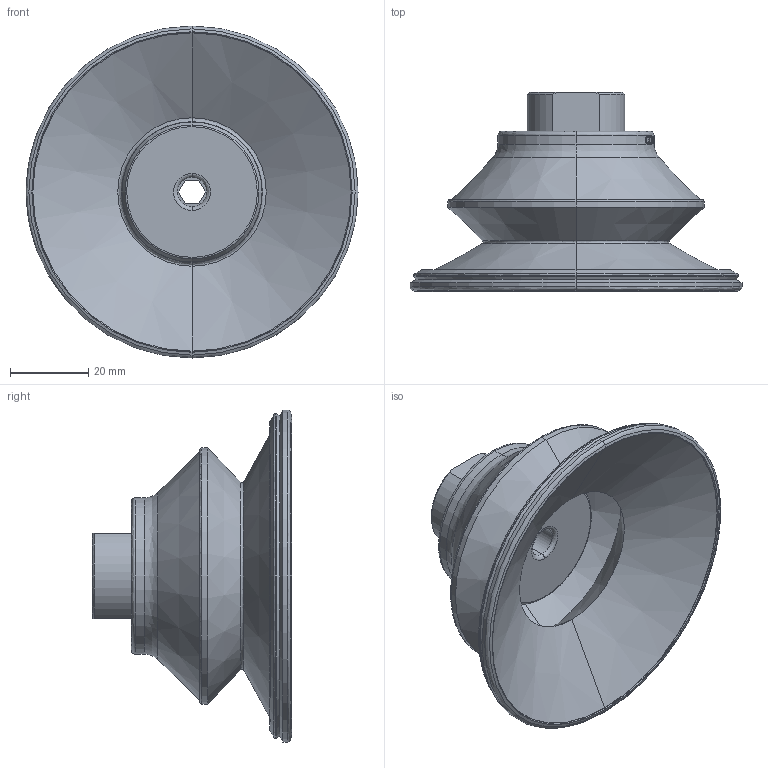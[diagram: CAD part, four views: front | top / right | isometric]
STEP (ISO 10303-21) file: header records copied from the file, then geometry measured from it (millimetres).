
FILE_DESCRIPTION (( 'STEP AP214' ), '1' );
FILE_NAME ('SAB-80-G3-8IG.STEP', '2023-03-07T01:23:22', ( 'Windows User' ), ( 'P R C' ), 'SwSTEP 2.0', 'SolidWorks 2019', '' );
FILE_SCHEMA (( 'AUTOMOTIVE_DESIGN' ));
Length unit declared in the file: millimetre
Products named in the file (1): SAB-80-G3-8IG
Bounding box: 85 x 51 x 85 mm (x, y, z)
Volume: 52025.1 mm3; surface area: 25967.9 mm2
Topology: 1 solids, 1 shells, 138 faces, 316 edges, 192 vertices
Faces by surface type: bspline 55, plane 29, cone 28, cylinder 26
Entity records: 12775 total; most frequent: CARTESIAN_POINT 8345, ORIENTED_EDGE 632, DIRECTION 540, EDGE_CURVE 316, AXIS2_PLACEMENT_3D 210, VERTEX_POINT 192, EDGE_LOOP 152, UNCERTAINTY_MEASURE_WITH_UNIT 141
